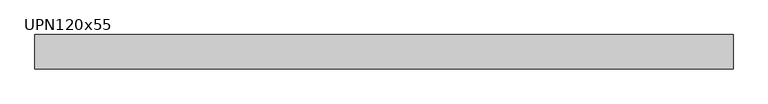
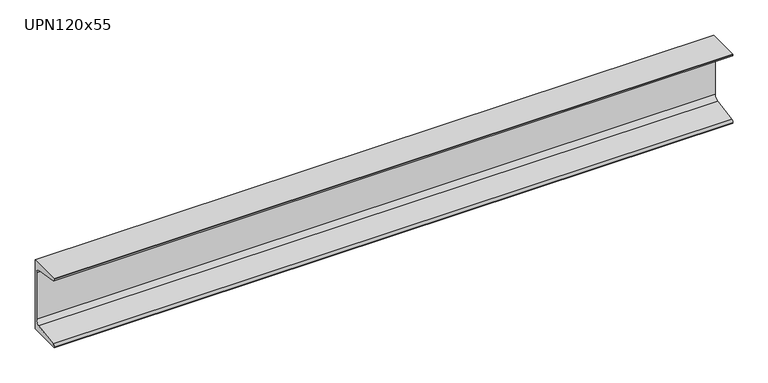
"""IFC4 building model written with IfcOpenShell, lengths in millimetres: beam geometry, M_MC Shapes : UPN120x55."""

from ifc_helpers import new_model, si_unit, point, frame, frame_2d, origin, place, context, project, spatial, polyline, circle_curve, trimmed, segment, composite_curve, outline, extrude, source, transform, mapped, element, save


def upn120x55_6f2391d9(model_context):
    return source(origin(), model_context, "Body", "SweptSolid", [
        extrude(outline(composite_curve([segment(polyline([(10.9, 60.0), (10.9, -60.0), (-44.1, -60.0), (-44.1, -59.0253247)]), True, "CONTINUOUS"), segment(trimmed(circle_curve(frame_2d((-40.15, -59.0253247)), 3.95), [point((-44.1, -59.0253247))], [point((-40.7993773, -55.1290689))], False, "CARTESIAN"), True, "CONTINUOUS"), segment(polyline([(-40.7993773, -55.1290689), (-0.2512455, -48.3710335)]), True, "CONTINUOUS"), segment(trimmed(circle_curve(frame_2d((-1.55, -40.5785219)), 7.9), [point((-0.2512455, -48.3710335))], [point((6.35, -40.5785219))], True, "CARTESIAN"), True, "CONTINUOUS"), segment(polyline([(6.35, -40.5785219), (6.35, 40.5785219)]), True, "CONTINUOUS"), segment(trimmed(circle_curve(frame_2d((-1.55, 40.5785219)), 7.9), [point((6.35, 40.5785219))], [point((-0.2512455, 48.3710335))], True, "CARTESIAN"), True, "CONTINUOUS"), segment(polyline([(-0.2512455, 48.3710335), (-40.7993773, 55.1290689)]), True, "CONTINUOUS"), segment(trimmed(circle_curve(frame_2d((-40.15, 59.0253247)), 3.95), [point((-40.7993773, 55.1290689))], [point((-44.1, 59.0253247))], False, "CARTESIAN"), True, "CONTINUOUS"), segment(polyline([(-44.1, 59.0253247), (-44.1, 60.0), (10.9, 60.0)]), True, "CONTINUOUS")], self_intersect=False)), frame((-558.9, 0.0, 0.0), z_axis=(1.0, 0.0, 0.0), x_axis=(0.0, 1.0, 0.0)), (0.0, 0.0, 1.0), 1117.8),
    ])


if __name__ == "__main__":
    model = new_model("IFC4")
    model_context = context("Model", 3, world=origin())
    ifc_project = project(units=[si_unit("LENGTHUNIT", "METRE", prefix="MILLI")], contexts=[model_context])
    site = spatial("IfcSite", under=ifc_project)
    building = spatial("IfcBuilding", under=site)
    placement = place(None, origin())
    upn120x55_shape = upn120x55_6f2391d9(model_context)
    element("IfcBeam", 1, ObjectType="M_MC Shapes : UPN120x55", at=placement, inside=building, context=model_context, shape_type="MappedRepresentation", body=[
        mapped(upn120x55_shape, transform((0.0, 0.0, 0.0), x_axis=(1.0, 0.0, 0.0), y_axis=(0.0, 1.0, 0.0), z_axis=(0.0, 0.0, 1.0))),
    ])
    save(model, "model.ifc")
